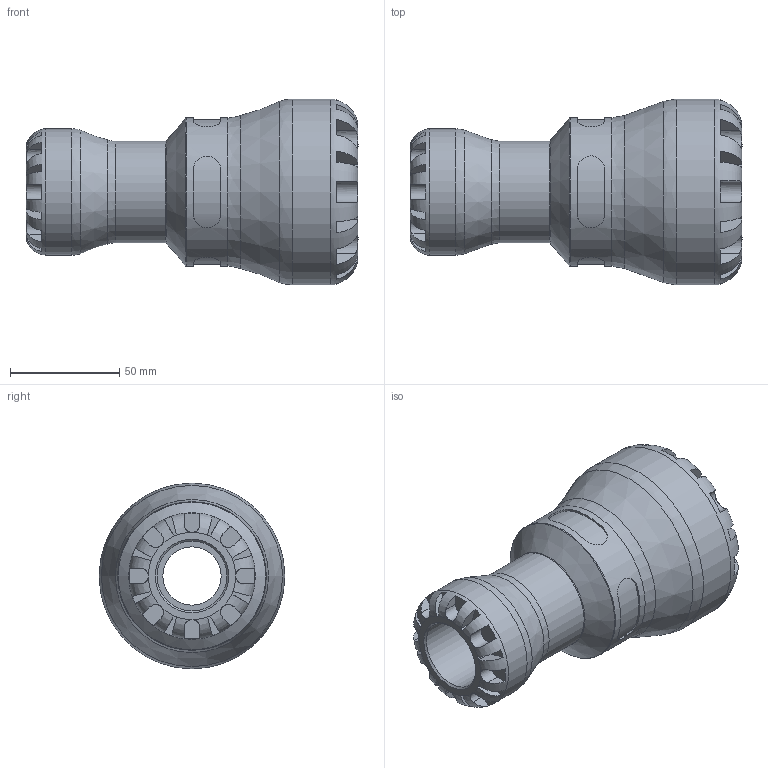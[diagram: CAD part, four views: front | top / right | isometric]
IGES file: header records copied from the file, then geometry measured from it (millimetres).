
Global section: file name: 101100050032_191100050032.ipt; native system: Autodesk Inventor 2015; preprocessor: unknown; author: KIM; date: 20170117.123317; units: millimetre
Bounding box: 152 x 85 x 85 mm (x, y, z)
Volume: 297436.2 mm3; surface area: 61511.4 mm2
Topology: 1 solids, 1 shells, 172 faces, 451 edges, 286 vertices
Faces by surface type: plane 108, revolution 37, cylinder 24, cone 3
Full cylindrical faces by diameter (mm): 46.4 x1, 58 x1, 68 x1, 85 x1
